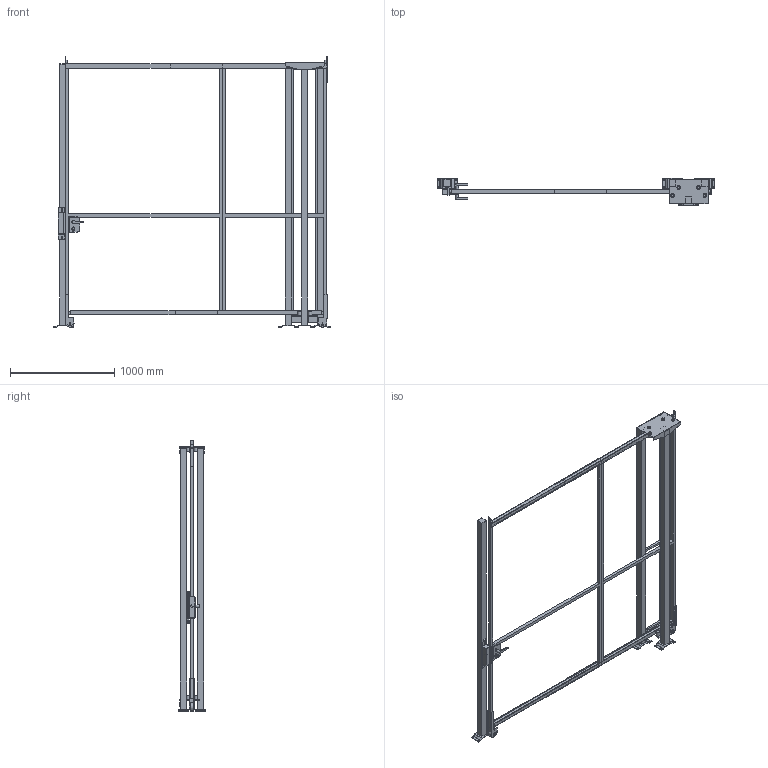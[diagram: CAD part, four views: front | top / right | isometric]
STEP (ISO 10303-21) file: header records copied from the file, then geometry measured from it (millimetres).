
FILE_DESCRIPTION(/* description */ (''),/* implementation_level */ '2;1');
FILE_NAME(/* name */ 'C:\SafeGuarding\ELABORATI\KLADKOUGAMMA_2025-03-21-11-55-55.stp',/* time_stamp */ '2025-03-21T11:55:58+01:00',/* author */ ('admin'),/* organization */ (''),/* preprocessor_version */ 'ST-DEVELOPER v18.1',/* originating_system */ 'AutoCAD Mechanical',/* authorisation */ '');
FILE_SCHEMA (('AUTOMOTIVE_DESIGN { 1 0 10303 214 3 1 1 }'));
Length unit declared in the file: millimetre
Products named in the file (5): Product; VFPA.REPE30.10002400; VFPA.REPE30.15002400; VFPA.REPE2002502400; P_VFMA.V260SDU.2520
Assembly tree (7 placements, depth 2):
  Product
    VFPA.REPE30.10002400
    VFPA.REPE30.15002400
    P_VFMA.V260SDU.2520  x4
    VFPA.REPE2002502400
Bounding box: 2661.91 x 264 x 2590.02 mm (x, y, z)
Volume: 58073157.4 mm3; surface area: 7337888.9 mm2
Topology: 55 solids, 55 shells, 554 faces, 1682 edges, 1620 vertices
Faces by surface type: plane 476, cylinder 74, bspline 4
Full cylindrical faces by diameter (mm): 9 x4, 11 x16, 13 x4, 18 x1, 25 x2, 25.398 x2, 30 x6, 36 x8, 80 x2
Entity records: 17088 total; most frequent: CARTESIAN_POINT 4496, DIRECTION 2506, ORIENTED_EDGE 2206, LINE 1162, VECTOR 1162, EDGE_CURVE 1103, VERTEX_POINT 742, AXIS2_PLACEMENT_3D 672
